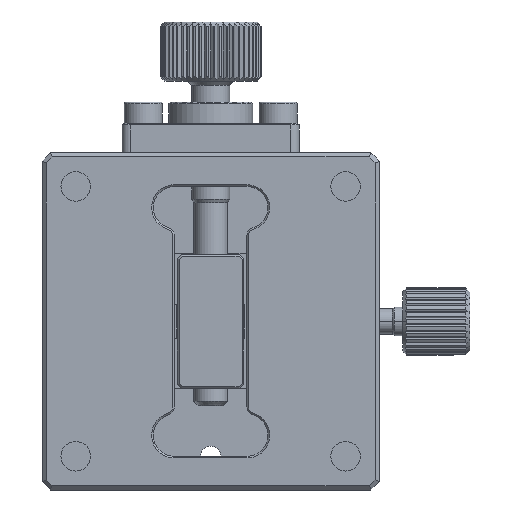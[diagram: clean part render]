
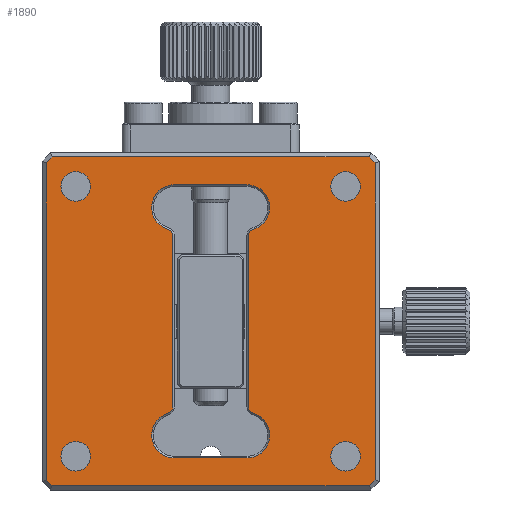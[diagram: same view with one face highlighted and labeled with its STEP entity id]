
A CAD part, front view. The second image highlights one B-rep face of the part: STEP entity #1890.
In plain terms, the highlighted planar face has unit normal (0, -1, 0).
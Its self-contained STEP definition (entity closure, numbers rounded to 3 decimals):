
#275=DIRECTION('',(0.707,0.,-0.707));
#276=VECTOR('',#275,1.);
#277=CARTESIAN_POINT('',(-19.5,-5.9,-18.793));
#278=LINE('',#277,#276);
#279=DIRECTION('',(0.,0.,-1.));
#280=VECTOR('',#279,37.586);
#281=CARTESIAN_POINT('',(-19.5,-5.9,18.793));
#282=LINE('',#281,#280);
#283=DIRECTION('',(-0.707,0.,-0.707));
#284=VECTOR('',#283,1.);
#285=CARTESIAN_POINT('',(-18.793,-5.9,19.5));
#286=LINE('',#285,#284);
#287=DIRECTION('',(-1.,0.,0.));
#288=VECTOR('',#287,37.586);
#289=CARTESIAN_POINT('',(18.793,-5.9,19.5));
#290=LINE('',#289,#288);
#291=DIRECTION('',(-0.707,0.,0.707));
#292=VECTOR('',#291,1.);
#293=CARTESIAN_POINT('',(19.5,-5.9,18.793));
#294=LINE('',#293,#292);
#295=DIRECTION('',(0.,0.,1.));
#296=VECTOR('',#295,37.586);
#297=CARTESIAN_POINT('',(19.5,-5.9,-18.793));
#298=LINE('',#297,#296);
#299=DIRECTION('',(0.707,0.,0.707));
#300=VECTOR('',#299,1.);
#301=CARTESIAN_POINT('',(18.793,-5.9,-19.5));
#302=LINE('',#301,#300);
#303=DIRECTION('',(1.,0.,0.));
#304=VECTOR('',#303,37.586);
#305=CARTESIAN_POINT('',(-18.793,-5.9,-19.5));
#306=LINE('',#305,#304);
#307=CARTESIAN_POINT('',(-5.3,-5.9,10.146));
#308=DIRECTION('',(0.,-1.,0.));
#309=DIRECTION('',(1.,0.,0.));
#310=AXIS2_PLACEMENT_3D('',#307,#308,#309);
#312=DIRECTION('',(0.,0.,1.));
#313=VECTOR('',#312,20.292);
#314=CARTESIAN_POINT('',(-4.5,-5.9,
-10.146));
#315=LINE('',#314,#313);
#316=CARTESIAN_POINT('',(-5.3,-5.9,-10.146));
#317=DIRECTION('',(0.,-1.,0.));
#318=DIRECTION('',(0.286,0.,-0.958));
#319=AXIS2_PLACEMENT_3D('',#316,#317,#318);
#321=CARTESIAN_POINT('',(-4.3,-5.9,-13.5));
#322=DIRECTION('',(0.,1.,0.));
#323=DIRECTION('',(0.,0.,-1.));
#324=AXIS2_PLACEMENT_3D('',#321,#322,#323);
#326=DIRECTION('',(-1.,0.,0.));
#327=VECTOR('',#326,8.6);
#328=CARTESIAN_POINT('',(4.3,-5.9,-16.2));
#329=LINE('',#328,#327);
#330=CARTESIAN_POINT('',(4.3,-5.9,-13.5));
#331=DIRECTION('',(0.,1.,0.));
#332=DIRECTION('',(0.286,0.,0.958));
#333=AXIS2_PLACEMENT_3D('',#330,#331,#332);
#335=CARTESIAN_POINT('',(5.3,-5.9,-10.146));
#336=DIRECTION('',(0.,-1.,0.));
#337=DIRECTION('',(-1.,0.,0.));
#338=AXIS2_PLACEMENT_3D('',#335,#336,#337);
#340=DIRECTION('',(0.,0.,-1.));
#341=VECTOR('',#340,20.292);
#342=CARTESIAN_POINT('',(4.5,-5.9,10.146));
#343=LINE('',#342,#341);
#344=CARTESIAN_POINT('',(5.3,-5.9,10.146));
#345=DIRECTION('',(0.,-1.,0.));
#346=DIRECTION('',(-0.286,0.,0.958));
#347=AXIS2_PLACEMENT_3D('',#344,#345,#346);
#349=CARTESIAN_POINT('',(4.3,-5.9,13.5));
#350=DIRECTION('',(0.,1.,0.));
#351=DIRECTION('',(0.,0.,1.));
#352=AXIS2_PLACEMENT_3D('',#349,#350,#351);
#354=DIRECTION('',(1.,0.,0.));
#355=VECTOR('',#354,8.6);
#356=CARTESIAN_POINT('',(-4.3,-5.9,16.2));
#357=LINE('',#356,#355);
#358=CARTESIAN_POINT('',(-4.3,-5.9,13.5));
#359=DIRECTION('',(0.,1.,0.));
#360=DIRECTION('',(-0.286,0.,-0.958));
#361=AXIS2_PLACEMENT_3D('',#358,#359,#360);
#363=CARTESIAN_POINT('',(-16.,-5.9,-16.));
#364=DIRECTION('',(0.,1.,0.));
#365=DIRECTION('',(1.,0.,0.));
#366=AXIS2_PLACEMENT_3D('',#363,#364,#365);
#368=CARTESIAN_POINT('',(-16.,-5.9,-16.));
#369=DIRECTION('',(0.,1.,0.));
#370=DIRECTION('',(-1.,0.,0.));
#371=AXIS2_PLACEMENT_3D('',#368,#369,#370);
#373=CARTESIAN_POINT('',(16.,-5.9,-16.));
#374=DIRECTION('',(0.,1.,0.));
#375=DIRECTION('',(1.,0.,0.));
#376=AXIS2_PLACEMENT_3D('',#373,#374,#375);
#378=CARTESIAN_POINT('',(16.,-5.9,-16.));
#379=DIRECTION('',(0.,1.,0.));
#380=DIRECTION('',(-1.,0.,0.));
#381=AXIS2_PLACEMENT_3D('',#378,#379,#380);
#383=CARTESIAN_POINT('',(-16.,-5.9,16.));
#384=DIRECTION('',(0.,1.,0.));
#385=DIRECTION('',(1.,0.,0.));
#386=AXIS2_PLACEMENT_3D('',#383,#384,#385);
#388=CARTESIAN_POINT('',(-16.,-5.9,16.));
#389=DIRECTION('',(0.,1.,0.));
#390=DIRECTION('',(-1.,0.,0.));
#391=AXIS2_PLACEMENT_3D('',#388,#389,#390);
#393=CARTESIAN_POINT('',(16.,-5.9,16.));
#394=DIRECTION('',(0.,1.,0.));
#395=DIRECTION('',(1.,0.,0.));
#396=AXIS2_PLACEMENT_3D('',#393,#394,#395);
#398=CARTESIAN_POINT('',(16.,-5.9,16.));
#399=DIRECTION('',(0.,1.,0.));
#400=DIRECTION('',(-1.,0.,0.));
#401=AXIS2_PLACEMENT_3D('',#398,#399,#400);
#1249=CARTESIAN_POINT('',(-19.5,-5.9,-18.793));
#1250=CARTESIAN_POINT('',(-18.793,-5.9,-19.5));
#1251=VERTEX_POINT('',#1249);
#1252=VERTEX_POINT('',#1250);
#1259=CARTESIAN_POINT('',(18.793,-5.9,-19.5));
#1260=VERTEX_POINT('',#1259);
#1261=CARTESIAN_POINT('',(19.5,-5.9,-18.793));
#1262=VERTEX_POINT('',#1261);
#1267=CARTESIAN_POINT('',(19.5,-5.9,18.793));
#1268=VERTEX_POINT('',#1267);
#1269=CARTESIAN_POINT('',(18.793,-5.9,19.5));
#1270=VERTEX_POINT('',#1269);
#1275=CARTESIAN_POINT('',(-18.793,-5.9,19.5));
#1276=VERTEX_POINT('',#1275);
#1279=CARTESIAN_POINT('',(-19.5,-5.9,18.793));
#1280=VERTEX_POINT('',#1279);
#1425=CARTESIAN_POINT('',(-4.5,-5.9,10.146));
#1426=CARTESIAN_POINT('',(-5.071,-5.9,10.913));
#1427=VERTEX_POINT('',#1425);
#1428=VERTEX_POINT('',#1426);
#1433=CARTESIAN_POINT('',(-4.3,-5.9,16.2));
#1434=VERTEX_POINT('',#1433);
#1437=CARTESIAN_POINT('',(4.3,-5.9,16.2));
#1438=VERTEX_POINT('',#1437);
#1441=CARTESIAN_POINT('',(5.071,-5.9,10.913));
#1442=VERTEX_POINT('',#1441);
#1445=CARTESIAN_POINT('',(4.5,-5.9,10.146));
#1446=VERTEX_POINT('',#1445);
#1449=CARTESIAN_POINT('',(4.5,-5.9,
-10.146));
#1450=VERTEX_POINT('',#1449);
#1453=CARTESIAN_POINT('',(5.071,-5.9,-10.913));
#1454=VERTEX_POINT('',#1453);
#1457=CARTESIAN_POINT('',(4.3,-5.9,-16.2));
#1458=VERTEX_POINT('',#1457);
#1461=CARTESIAN_POINT('',(-4.3,-5.9,
-16.2));
#1462=VERTEX_POINT('',#1461);
#1465=CARTESIAN_POINT('',(-5.071,-5.9,-10.913));
#1466=VERTEX_POINT('',#1465);
#1469=CARTESIAN_POINT('',(-4.5,-5.9,-10.146));
#1470=VERTEX_POINT('',#1469);
#1473=CARTESIAN_POINT('',(-14.25,-5.9,-16.));
#1474=CARTESIAN_POINT('',(-17.75,-5.9,-16.));
#1475=VERTEX_POINT('',#1473);
#1476=VERTEX_POINT('',#1474);
#1477=CARTESIAN_POINT('',(17.75,-5.9,-16.));
#1478=CARTESIAN_POINT('',(14.25,-5.9,-16.));
#1479=VERTEX_POINT('',#1477);
#1480=VERTEX_POINT('',#1478);
#1481=CARTESIAN_POINT('',(-14.25,-5.9,16.));
#1482=CARTESIAN_POINT('',(-17.75,-5.9,16.));
#1483=VERTEX_POINT('',#1481);
#1484=VERTEX_POINT('',#1482);
#1485=CARTESIAN_POINT('',(17.75,-5.9,16.));
#1486=CARTESIAN_POINT('',(14.25,-5.9,16.));
#1487=VERTEX_POINT('',#1485);
#1488=VERTEX_POINT('',#1486);
#1818=CARTESIAN_POINT('',(0.,-5.9,0.));
#1819=DIRECTION('',(0.,1.,0.));
#1820=DIRECTION('',(1.,0.,0.));
#1821=AXIS2_PLACEMENT_3D('',#1818,#1819,#1820);
#1822=PLANE('',#1821);
#1824=ORIENTED_EDGE('',*,*,#1823,.F.);
#1826=ORIENTED_EDGE('',*,*,#1825,.F.);
#1828=ORIENTED_EDGE('',*,*,#1827,.F.);
#1830=ORIENTED_EDGE('',*,*,#1829,.F.);
#1832=ORIENTED_EDGE('',*,*,#1831,.F.);
#1834=ORIENTED_EDGE('',*,*,#1833,.F.);
#1836=ORIENTED_EDGE('',*,*,#1835,.F.);
#1838=ORIENTED_EDGE('',*,*,#1837,.F.);
#1839=EDGE_LOOP('',(#1824,#1826,#1828,#1830,#1832,#1834,#1836,#1838));
#1840=FACE_OUTER_BOUND('',#1839,.F.);
#1842=ORIENTED_EDGE('',*,*,#1841,.F.);
#1844=ORIENTED_EDGE('',*,*,#1843,.F.);
#1846=ORIENTED_EDGE('',*,*,#1845,.F.);
#1848=ORIENTED_EDGE('',*,*,#1847,.F.);
#1850=ORIENTED_EDGE('',*,*,#1849,.F.);
#1852=ORIENTED_EDGE('',*,*,#1851,.F.);
#1854=ORIENTED_EDGE('',*,*,#1853,.F.);
#1856=ORIENTED_EDGE('',*,*,#1855,.F.);
#1858=ORIENTED_EDGE('',*,*,#1857,.F.);
#1860=ORIENTED_EDGE('',*,*,#1859,.F.);
#1861=ORIENTED_EDGE('',*,*,#1808,.F.);
#1863=ORIENTED_EDGE('',*,*,#1862,.F.);
#1864=EDGE_LOOP('',(#1842,#1844,#1846,#1848,#1850,#1852,#1854,#1856,#1858,#1860,
#1861,#1863));
#1865=FACE_BOUND('',#1864,.F.);
#1867=ORIENTED_EDGE('',*,*,#1866,.F.);
#1869=ORIENTED_EDGE('',*,*,#1868,.F.);
#1870=EDGE_LOOP('',(#1867,#1869));
#1871=FACE_BOUND('',#1870,.F.);
#1873=ORIENTED_EDGE('',*,*,#1872,.F.);
#1875=ORIENTED_EDGE('',*,*,#1874,.F.);
#1876=EDGE_LOOP('',(#1873,#1875));
#1877=FACE_BOUND('',#1876,.F.);
#1879=ORIENTED_EDGE('',*,*,#1878,.F.);
#1881=ORIENTED_EDGE('',*,*,#1880,.F.);
#1882=EDGE_LOOP('',(#1879,#1881));
#1883=FACE_BOUND('',#1882,.F.);
#1885=ORIENTED_EDGE('',*,*,#1884,.F.);
#1887=ORIENTED_EDGE('',*,*,#1886,.F.);
#1888=EDGE_LOOP('',(#1885,#1887));
#1889=FACE_BOUND('',#1888,.F.);
#1890=ADVANCED_FACE('',(#1840,#1865,#1871,#1877,#1883,#1889),#1822,.F.);
#311=CIRCLE('',#310,0.8);
#320=CIRCLE('',#319,0.8);
#325=CIRCLE('',#324,2.7);
#334=CIRCLE('',#333,2.7);
#339=CIRCLE('',#338,0.8);
#348=CIRCLE('',#347,0.8);
#353=CIRCLE('',#352,2.7);
#362=CIRCLE('',#361,2.7);
#367=CIRCLE('',#366,1.75);
#372=CIRCLE('',#371,1.75);
#377=CIRCLE('',#376,1.75);
#382=CIRCLE('',#381,1.75);
#387=CIRCLE('',#386,1.75);
#392=CIRCLE('',#391,1.75);
#397=CIRCLE('',#396,1.75);
#402=CIRCLE('',#401,1.75);
#1808=EDGE_CURVE('',#1434,#1438,#357,.T.);
#1823=EDGE_CURVE('',#1251,#1252,#278,.T.);
#1825=EDGE_CURVE('',#1280,#1251,#282,.T.);
#1827=EDGE_CURVE('',#1276,#1280,#286,.T.);
#1829=EDGE_CURVE('',#1270,#1276,#290,.T.);
#1831=EDGE_CURVE('',#1268,#1270,#294,.T.);
#1833=EDGE_CURVE('',#1262,#1268,#298,.T.);
#1835=EDGE_CURVE('',#1260,#1262,#302,.T.);
#1837=EDGE_CURVE('',#1252,#1260,#306,.T.);
#1841=EDGE_CURVE('',#1427,#1428,#311,.T.);
#1843=EDGE_CURVE('',#1470,#1427,#315,.T.);
#1845=EDGE_CURVE('',#1466,#1470,#320,.T.);
#1847=EDGE_CURVE('',#1462,#1466,#325,.T.);
#1849=EDGE_CURVE('',#1458,#1462,#329,.T.);
#1851=EDGE_CURVE('',#1454,#1458,#334,.T.);
#1853=EDGE_CURVE('',#1450,#1454,#339,.T.);
#1855=EDGE_CURVE('',#1446,#1450,#343,.T.);
#1857=EDGE_CURVE('',#1442,#1446,#348,.T.);
#1859=EDGE_CURVE('',#1438,#1442,#353,.T.);
#1862=EDGE_CURVE('',#1428,#1434,#362,.T.);
#1866=EDGE_CURVE('',#1475,#1476,#367,.T.);
#1868=EDGE_CURVE('',#1476,#1475,#372,.T.);
#1872=EDGE_CURVE('',#1479,#1480,#377,.T.);
#1874=EDGE_CURVE('',#1480,#1479,#382,.T.);
#1878=EDGE_CURVE('',#1483,#1484,#387,.T.);
#1880=EDGE_CURVE('',#1484,#1483,#392,.T.);
#1884=EDGE_CURVE('',#1487,#1488,#397,.T.);
#1886=EDGE_CURVE('',#1488,#1487,#402,.T.);
